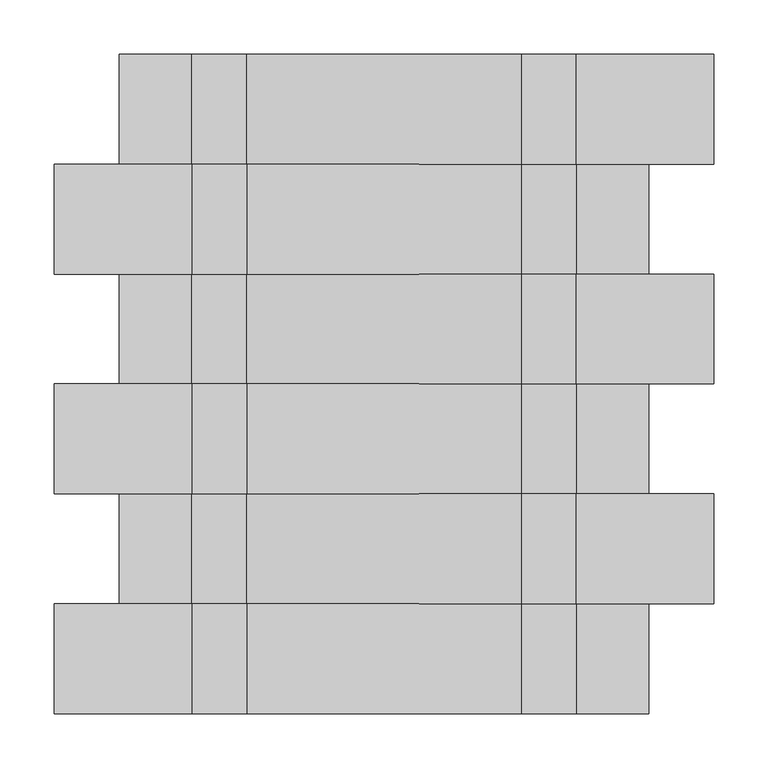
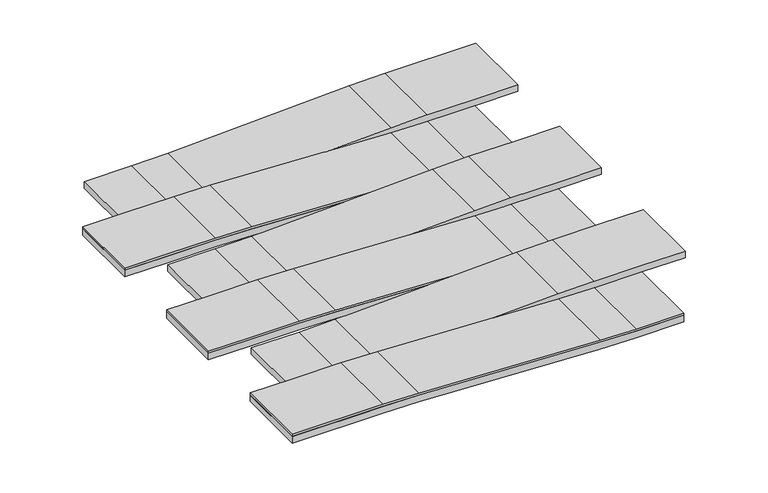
"""IFC4 building model written with IfcOpenShell, lengths in millimetres: proxy geometry, FilzFelt_Crossover : 2’-0” x 2’-0”."""

from ifc_helpers import new_model, si_unit, frame, origin, place, context, project, spatial, polyline, circle_curve, source, transform, mapped, element, save
from ifc_brep_helpers import plane_surface, cylinder_surface, revolved_surface, advanced_brep


def specialty_equipment_3ae4ee64(model_context):
    return source(origin(), model_context, "Body", "AdvancedBrep", [
        advanced_brep(
        [(244.475, 101.6, 9.525), (244.475, 101.6, 0.0), (244.475, 203.2, 0.0), (244.475, 203.2, 9.525), (-304.8, 101.6, 12.7), (-304.8, 101.6, 22.225), (-304.8, 203.2, 22.225), (-304.8, 203.2, 12.7), (-244.475, 101.6, 12.7), (-177.7889853, 101.6, 12.7), (-127.5617331, 101.6, 11.6540527), (126.5043172, 101.6, 1.0679673), (177.7889853, 101.6, 0.0), (177.7889853, 101.6, 9.525), (126.9008482, 101.6, 10.5847098), (-127.1652021, 101.6, 21.1707952), (-177.7889853, 101.6, 22.225), (-244.475, 101.6, 22.225), (-177.7889853, 203.2, 22.225), (-244.475, 203.2, 22.225), (-127.1652021, 203.2, 21.1707952), (126.9008482, 203.2, 10.5847098), (177.7889853, 203.2, 9.525), (177.7889853, 203.2, 0.0), (126.5043172, 203.2, 1.0679673), (-127.5617331, 203.2, 11.6540527), (-177.7889853, 203.2, 12.7), (-244.475, 203.2, 12.7)],
        [
            (0, 1),
            (1, 2),
            (2, 3),
            (3, 0),
            (4, 5),
            (5, 6),
            (6, 7),
            (7, 4),
            (4, 8),
            (8, 9),
            (9, 10, circle_curve(frame((-177.7889853, 101.6, -1193.8), z_axis=(0.0, 1.0, 0.0), x_axis=(0.0, 0.0, 1.0)), 1206.5)),
            (10, 11),
            (11, 12, circle_curve(frame((177.7889853, 101.6, 1231.9), z_axis=(0.0, -1.0, 0.0), x_axis=(-0.04163054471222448, 0.0, -0.9991330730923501)), 1231.9)),
            (12, 1),
            (0, 13),
            (13, 14, circle_curve(frame((177.7889853, 101.6, 1231.9), z_axis=(0.0, 1.0, 0.0), x_axis=(-0.04163054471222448, 0.0, -0.9991330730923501)), 1222.375)),
            (14, 15),
            (15, 16, circle_curve(frame((-177.7889853, 101.6, -1193.8), z_axis=(0.0, -1.0, 0.0), x_axis=(0.0, 0.0, 1.0)), 1216.025)),
            (16, 17),
            (17, 5),
            (16, 18),
            (18, 19),
            (19, 6),
            (18, 20, circle_curve(frame((-177.7889853, 203.2, -1193.8), z_axis=(0.0, 1.0, 0.0), x_axis=(0.0, 0.0, 1.0)), 1216.025)),
            (20, 21),
            (21, 22, circle_curve(frame((177.7889853, 203.2, 1231.9), z_axis=(0.0, -1.0, 0.0), x_axis=(-0.04163054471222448, 0.0, -0.9991330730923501)), 1222.375)),
            (22, 3),
            (2, 23),
            (23, 24, circle_curve(frame((177.7889853, 203.2, 1231.9), z_axis=(0.0, 1.0, 0.0), x_axis=(-0.04163054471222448, 0.0, -0.9991330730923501)), 1231.9)),
            (24, 25),
            (25, 26, circle_curve(frame((-177.7889853, 203.2, -1193.8), z_axis=(0.0, -1.0, 0.0), x_axis=(0.0, 0.0, 1.0)), 1206.5)),
            (26, 27),
            (27, 7),
            (26, 9),
            (15, 20),
            (25, 10),
            (14, 21),
            (24, 11),
            (13, 22),
            (23, 12),
        ],
        [
            plane_surface(frame((244.475, 203.2, 25.4), z_axis=(1.0, 0.0, 0.0), x_axis=(0.0, 0.0, -1.0))),
            plane_surface(frame((-304.8, 0.0, 25.4), z_axis=(-1.0, 0.0, 0.0), x_axis=(0.0, -1.0, 0.0))),
            plane_surface(frame((-304.8, 101.6, 12.7), z_axis=(0.0, -1.0, 0.0), x_axis=(1.0, 0.0, 0.0))),
            plane_surface(frame((-304.8, 101.6, 22.225), z_axis=(0.0, 0.0, 1.0), x_axis=(1.0, 0.0, 0.0))),
            plane_surface(frame((-304.8, 203.2, 22.225), z_axis=(0.0, 1.0, 0.0), x_axis=(1.0, 0.0, 0.0))),
            plane_surface(frame((-304.8, 203.2, 12.7), z_axis=(0.0, 0.0, -1.0), x_axis=(1.0, 0.0, 0.0))),
            cylinder_surface(frame((-177.7889853, 0.0, -1193.8), z_axis=(0.0, 1.0, 0.0), x_axis=(0.0, 0.0, 1.0)), 1216.025),
            revolved_surface(polyline([(-177.7889853, 203.2, 12.700000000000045), (-177.7889853, 101.6, 12.700000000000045)]), (-177.7889853, 0.0, -1193.8), (0.0, 1.0, 0.0)),
            plane_surface(frame((-127.1652021, 101.6, 21.1707952), z_axis=(0.041630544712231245, 0.0, 0.9991330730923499), x_axis=(0.9991330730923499, 0.0, -0.041630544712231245))),
            plane_surface(frame((-127.5617331, 203.2, 11.6540527), z_axis=(-0.041630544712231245, 0.0, -0.9991330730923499), x_axis=(0.9991330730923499, 0.0, -0.041630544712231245))),
            revolved_surface(polyline([(126.9008482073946, 101.6, 10.58470977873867), (126.9008482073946, 203.2, 10.58470977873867)]), (177.7889853, 0.0, 1231.9), (0.0, -1.0, 0.0)),
            cylinder_surface(frame((177.7889853, 0.0, 1231.9), z_axis=(0.0, -1.0, 0.0), x_axis=(-0.04163054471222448, 0.0, -0.9991330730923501)), 1231.9),
            plane_surface(frame((177.7889853, 101.6, 9.525), z_axis=(0.0, 0.0, 1.0), x_axis=(1.0, 0.0, 0.0))),
            plane_surface(frame((177.7889853, 203.2, 0.0), z_axis=(0.0, 0.0, -1.0), x_axis=(1.0, 0.0, 0.0))),
        ],
        [
            (0, [[1, 2, 3, 4]]),
            (1, [[5, 6, 7, 8]]),
            (2, [[-5, 9, 10, 11, 12, 13, 14, -1, 15, 16, 17, 18, 19, 20]]),
            (3, [[-6, -20, -19, 21, 22, 23]]),
            (4, [[-7, -23, -22, 24, 25, 26, 27, -3, 28, 29, 30, 31, 32, 33]]),
            (5, [[-8, -33, -32, 34, -10, -9]]),
            (6, [[-18, 35, -24, -21]]),
            (7, [[-11, -34, -31, 36]]),
            (8, [[-17, 37, -25, -35]]),
            (9, [[-12, -36, -30, 38]]),
            (10, [[-16, 39, -26, -37]]),
            (11, [[-13, -38, -29, 40]]),
            (12, [[-39, -15, -4, -27]]),
            (13, [[-40, -28, -2, -14]]),
        ],
    ),
        advanced_brep(
        [(244.475, -101.6, 9.525), (244.475, -101.6, 0.0), (244.475, 0.0, 0.0), (244.475, 0.0, 9.525), (-304.8, -101.6, 12.7), (-304.8, -101.6, 22.225), (-304.8, 0.0, 22.225), (-304.8, 0.0, 12.7), (-244.475, -101.6, 12.7), (-177.7889853, -101.6, 12.7), (-127.5617331, -101.6, 11.6540527), (126.5043172, -101.6, 1.0679673), (177.7889853, -101.6, 0.0), (177.7889853, -101.6, 9.525), (126.9008482, -101.6, 10.5847098), (-127.1652021, -101.6, 21.1707952), (-177.7889853, -101.6, 22.225), (-244.475, -101.6, 22.225), (-177.7889853, 0.0, 22.225), (-244.475, 0.0, 22.225), (-127.1652021, 0.0, 21.1707952), (126.9008482, 0.0, 10.5847098), (177.7889853, 0.0, 9.525), (177.7889853, 0.0, 0.0), (126.5043172, 0.0, 1.0679673), (-127.5617331, 0.0, 11.6540527), (-177.7889853, 0.0, 12.7), (-244.475, 0.0, 12.7)],
        [
            (0, 1),
            (1, 2),
            (2, 3),
            (3, 0),
            (4, 5),
            (5, 6),
            (6, 7),
            (7, 4),
            (4, 8),
            (8, 9),
            (9, 10, circle_curve(frame((-177.7889853, -101.6, -1193.8), z_axis=(0.0, 1.0, 0.0), x_axis=(0.0, 0.0, 1.0)), 1206.5)),
            (10, 11),
            (11, 12, circle_curve(frame((177.7889853, -101.6, 1231.9), z_axis=(0.0, -1.0, 0.0), x_axis=(-0.04163054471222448, 0.0, -0.9991330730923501)), 1231.9)),
            (12, 1),
            (0, 13),
            (13, 14, circle_curve(frame((177.7889853, -101.6, 1231.9), z_axis=(0.0, 1.0, 0.0), x_axis=(-0.04163054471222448, 0.0, -0.9991330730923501)), 1222.375)),
            (14, 15),
            (15, 16, circle_curve(frame((-177.7889853, -101.6, -1193.8), z_axis=(0.0, -1.0, 0.0), x_axis=(0.0, 0.0, 1.0)), 1216.025)),
            (16, 17),
            (17, 5),
            (16, 18),
            (18, 19),
            (19, 6),
            (18, 20, circle_curve(frame((-177.7889853, 0.0, -1193.8), z_axis=(0.0, 1.0, 0.0), x_axis=(0.0, 0.0, 1.0)), 1216.025)),
            (20, 21),
            (21, 22, circle_curve(frame((177.7889853, 0.0, 1231.9), z_axis=(0.0, -1.0, 0.0), x_axis=(-0.04163054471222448, 0.0, -0.9991330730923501)), 1222.375)),
            (22, 3),
            (2, 23),
            (23, 24, circle_curve(frame((177.7889853, 0.0, 1231.9), z_axis=(0.0, 1.0, 0.0), x_axis=(-0.04163054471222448, 0.0, -0.9991330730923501)), 1231.9)),
            (24, 25),
            (25, 26, circle_curve(frame((-177.7889853, 0.0, -1193.8), z_axis=(0.0, -1.0, 0.0), x_axis=(0.0, 0.0, 1.0)), 1206.5)),
            (26, 27),
            (27, 7),
            (26, 9),
            (15, 20),
            (25, 10),
            (14, 21),
            (24, 11),
            (13, 22),
            (23, 12),
        ],
        [
            plane_surface(frame((244.475, 0.0, 25.4), z_axis=(1.0, 0.0, 0.0), x_axis=(0.0, 0.0, -1.0))),
            plane_surface(frame((-304.8, 0.0, 25.4), z_axis=(-1.0, 0.0, 0.0), x_axis=(0.0, -1.0, 0.0))),
            plane_surface(frame((-304.8, -101.6, 12.7), z_axis=(0.0, -1.0, 0.0), x_axis=(1.0, 0.0, 0.0))),
            plane_surface(frame((-304.8, -101.6, 22.225), z_axis=(0.0, 0.0, 1.0), x_axis=(1.0, 0.0, 0.0))),
            plane_surface(frame((-304.8, 0.0, 22.225), z_axis=(0.0, 1.0, 0.0), x_axis=(1.0, 0.0, 0.0))),
            plane_surface(frame((-304.8, 0.0, 12.7), z_axis=(0.0, 0.0, -1.0), x_axis=(1.0, 0.0, 0.0))),
            cylinder_surface(frame((-177.7889853, 0.0, -1193.8), z_axis=(0.0, 1.0, 0.0), x_axis=(0.0, 0.0, 1.0)), 1216.025),
            revolved_surface(polyline([(-177.7889853, 0.0, 12.700000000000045), (-177.7889853, -101.6, 12.700000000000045)]), (-177.7889853, 0.0, -1193.8), (0.0, 1.0, 0.0)),
            plane_surface(frame((-127.1652021, -101.6, 21.1707952), z_axis=(0.04163054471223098, 0.0, 0.9991330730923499), x_axis=(0.9991330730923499, 0.0, -0.04163054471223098))),
            plane_surface(frame((-127.5617331, 0.0, 11.6540527), z_axis=(-0.04163054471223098, 0.0, -0.9991330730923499), x_axis=(0.9991330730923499, 0.0, -0.04163054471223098))),
            revolved_surface(polyline([(126.9008482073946, -101.6, 10.58470977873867), (126.9008482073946, 0.0, 10.58470977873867)]), (177.7889853, 0.0, 1231.9), (0.0, -1.0, 0.0)),
            cylinder_surface(frame((177.7889853, 0.0, 1231.9), z_axis=(0.0, -1.0, 0.0), x_axis=(-0.04163054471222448, 0.0, -0.9991330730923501)), 1231.9),
            plane_surface(frame((177.7889853, -101.6, 9.525), z_axis=(0.0, 0.0, 1.0), x_axis=(1.0, 0.0, 0.0))),
            plane_surface(frame((177.7889853, 0.0, 0.0), z_axis=(0.0, 0.0, -1.0), x_axis=(1.0, 0.0, 0.0))),
        ],
        [
            (0, [[1, 2, 3, 4]]),
            (1, [[5, 6, 7, 8]]),
            (2, [[-5, 9, 10, 11, 12, 13, 14, -1, 15, 16, 17, 18, 19, 20]]),
            (3, [[-6, -20, -19, 21, 22, 23]]),
            (4, [[-7, -23, -22, 24, 25, 26, 27, -3, 28, 29, 30, 31, 32, 33]]),
            (5, [[-8, -33, -32, 34, -10, -9]]),
            (6, [[-18, 35, -24, -21]]),
            (7, [[-11, -34, -31, 36]]),
            (8, [[-17, 37, -25, -35]]),
            (9, [[-12, -36, -30, 38]]),
            (10, [[-16, 39, -26, -37]]),
            (11, [[-13, -38, -29, 40]]),
            (12, [[-39, -15, -4, -27]]),
            (13, [[-40, -28, -2, -14]]),
        ],
    ),
        advanced_brep(
        [(244.475, -304.8, 9.525), (244.475, -304.8, 0.0), (244.475, -203.2, 0.0), (244.475, -203.2, 9.525), (-304.8, -304.8, 12.7), (-304.8, -304.8, 22.225), (-304.8, -203.2, 22.225), (-304.8, -203.2, 12.7), (-177.7889853, -304.8, 12.7), (-127.5617331, -304.8, 11.6540527), (126.5043172, -304.8, 1.0679673), (177.7889853, -304.8, 0.0), (177.7889853, -304.8, 9.525), (126.9008482, -304.8, 10.5847098), (-127.1652021, -304.8, 21.1707952), (-177.7889853, -304.8, 22.225), (-177.7889853, -203.2, 22.225), (-244.475, -203.2, 22.225), (-127.1652021, -203.2, 21.1707952), (126.9008482, -203.2, 10.5847098), (177.7889853, -203.2, 9.525), (177.7889853, -203.2, 0.0), (126.5043172, -203.2, 1.0679673), (-127.5617331, -203.2, 11.6540527), (-177.7889853, -203.2, 12.7), (-244.475, -203.2, 12.7)],
        [
            (0, 1),
            (1, 2),
            (2, 3),
            (3, 0),
            (4, 5),
            (5, 6),
            (6, 7),
            (7, 4),
            (4, 8),
            (8, 9, circle_curve(frame((-177.7889853, -304.8, -1193.8), z_axis=(0.0, 1.0, 0.0), x_axis=(0.0, 0.0, 1.0)), 1206.5)),
            (9, 10),
            (10, 11, circle_curve(frame((177.7889853, -304.8, 1231.9), z_axis=(0.0, -1.0, 0.0), x_axis=(-0.04163054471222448, 0.0, -0.9991330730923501)), 1231.9)),
            (11, 1),
            (0, 12),
            (12, 13, circle_curve(frame((177.7889853, -304.8, 1231.9), z_axis=(0.0, 1.0, 0.0), x_axis=(-0.04163054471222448, 0.0, -0.9991330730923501)), 1222.375)),
            (13, 14),
            (14, 15, circle_curve(frame((-177.7889853, -304.8, -1193.8), z_axis=(0.0, -1.0, 0.0), x_axis=(0.0, 0.0, 1.0)), 1216.025)),
            (15, 5),
            (15, 16),
            (16, 17),
            (17, 6),
            (16, 18, circle_curve(frame((-177.7889853, -203.2, -1193.8), z_axis=(0.0, 1.0, 0.0), x_axis=(0.0, 0.0, 1.0)), 1216.025)),
            (18, 19),
            (19, 20, circle_curve(frame((177.7889853, -203.2, 1231.9), z_axis=(0.0, -1.0, 0.0), x_axis=(-0.04163054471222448, 0.0, -0.9991330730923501)), 1222.375)),
            (20, 3),
            (2, 21),
            (21, 22, circle_curve(frame((177.7889853, -203.2, 1231.9), z_axis=(0.0, 1.0, 0.0), x_axis=(-0.04163054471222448, 0.0, -0.9991330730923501)), 1231.9)),
            (22, 23),
            (23, 24, circle_curve(frame((-177.7889853, -203.2, -1193.8), z_axis=(0.0, -1.0, 0.0), x_axis=(0.0, 0.0, 1.0)), 1206.5)),
            (24, 25),
            (25, 7),
            (24, 8),
            (14, 18),
            (23, 9),
            (13, 19),
            (22, 10),
            (12, 20),
            (21, 11),
        ],
        [
            plane_surface(frame((244.475, -203.2, 25.4), z_axis=(1.0, 0.0, 0.0), x_axis=(0.0, 0.0, -1.0))),
            plane_surface(frame((-304.8, 0.0, 25.4), z_axis=(-1.0, 0.0, 0.0), x_axis=(0.0, -1.0, 0.0))),
            plane_surface(frame((-304.8, -304.8, 12.7), z_axis=(0.0, -1.0, 0.0), x_axis=(1.0, 0.0, 0.0))),
            plane_surface(frame((-304.8, -304.8, 22.225), z_axis=(0.0, 0.0, 1.0), x_axis=(1.0, 0.0, 0.0))),
            plane_surface(frame((-304.8, -203.2, 22.225), z_axis=(0.0, 1.0, 0.0), x_axis=(1.0, 0.0, 0.0))),
            plane_surface(frame((-304.8, -203.2, 12.7), z_axis=(0.0, 0.0, -1.0), x_axis=(1.0, 0.0, 0.0))),
            cylinder_surface(frame((-177.7889853, 0.0, -1193.8), z_axis=(0.0, 1.0, 0.0), x_axis=(0.0, 0.0, 1.0)), 1216.025),
            revolved_surface(polyline([(-177.7889853, -203.2, 12.700000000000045), (-177.7889853, -304.8, 12.700000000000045)]), (-177.7889853, 0.0, -1193.8), (0.0, 1.0, 0.0)),
            plane_surface(frame((-127.1652021, -304.8, 21.1707952), z_axis=(0.041630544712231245, 0.0, 0.9991330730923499), x_axis=(0.9991330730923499, 0.0, -0.041630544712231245))),
            plane_surface(frame((-127.5617331, -203.2, 11.6540527), z_axis=(-0.041630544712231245, 0.0, -0.9991330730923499), x_axis=(0.9991330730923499, 0.0, -0.041630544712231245))),
            revolved_surface(polyline([(126.9008482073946, -304.8, 10.58470977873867), (126.9008482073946, -203.2, 10.58470977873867)]), (177.7889853, 0.0, 1231.9), (0.0, -1.0, 0.0)),
            cylinder_surface(frame((177.7889853, 0.0, 1231.9), z_axis=(0.0, -1.0, 0.0), x_axis=(-0.04163054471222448, 0.0, -0.9991330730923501)), 1231.9),
            plane_surface(frame((177.7889853, -304.8, 9.525), z_axis=(0.0, 0.0, 1.0), x_axis=(1.0, 0.0, 0.0))),
            plane_surface(frame((177.7889853, -203.2, 0.0), z_axis=(0.0, 0.0, -1.0), x_axis=(1.0, 0.0, 0.0))),
        ],
        [
            (0, [[1, 2, 3, 4]]),
            (1, [[5, 6, 7, 8]]),
            (2, [[-5, 9, 10, 11, 12, 13, -1, 14, 15, 16, 17, 18]]),
            (3, [[-6, -18, 19, 20, 21]]),
            (4, [[-7, -21, -20, 22, 23, 24, 25, -3, 26, 27, 28, 29, 30, 31]]),
            (5, [[-8, -31, -30, 32, -9]]),
            (6, [[-17, 33, -22, -19]]),
            (7, [[-10, -32, -29, 34]]),
            (8, [[-16, 35, -23, -33]]),
            (9, [[-11, -34, -28, 36]]),
            (10, [[-15, 37, -24, -35]]),
            (11, [[-12, -36, -27, 38]]),
            (12, [[-37, -14, -4, -25]]),
            (13, [[-38, -26, -2, -13]]),
        ],
    ),
        advanced_brep(
        [(-244.475, 304.8, 9.525), (-244.475, 304.8, 0.0), (-244.475, 203.2, 0.0), (-244.475, 203.2, 9.525), (304.8, 203.2, 12.7), (304.8, 304.8, 12.7), (304.8, 304.8, 22.225), (304.8, 203.2, 22.225), (244.475, 203.2, 12.7), (177.7889853, 203.2, 12.7), (177.7889853, 304.8, 12.7), (127.5617331, 304.8, 11.6540527), (-126.5043172, 304.8, 1.0679673), (-177.7889853, 304.8, 0.0), (-177.7889853, 304.8, 9.525), (-126.9008482, 304.8, 10.5847098), (127.1652021, 304.8, 21.1707952), (177.7889853, 304.8, 22.225), (177.7889853, 203.2, 22.225), (244.475, 203.2, 22.225), (127.1652021, 203.2, 21.1707952), (-126.9008482, 203.2, 10.5847098), (-177.7889853, 203.2, 9.525), (-177.7889853, 203.2, 0.0), (-126.5043172, 203.2, 1.0679673), (127.5617331, 203.2, 11.6540527)],
        [
            (0, 1),
            (1, 2),
            (2, 3),
            (3, 0),
            (4, 5),
            (5, 6),
            (6, 7),
            (7, 4),
            (4, 8),
            (8, 9),
            (9, 10),
            (10, 5),
            (10, 11, circle_curve(frame((177.7889853, 304.8, -1193.8), z_axis=(0.0, -1.0, 0.0), x_axis=(0.0, 0.0, 1.0)), 1206.5)),
            (11, 12),
            (12, 13, circle_curve(frame((-177.7889853, 304.8, 1231.9), z_axis=(0.0, 1.0, 0.0), x_axis=(0.04163054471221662, 0.0, -0.9991330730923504)), 1231.9)),
            (13, 1),
            (0, 14),
            (14, 15, circle_curve(frame((-177.7889853, 304.8, 1231.9), z_axis=(0.0, -1.0, 0.0), x_axis=(0.04163054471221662, 0.0, -0.9991330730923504)), 1222.375)),
            (15, 16),
            (16, 17, circle_curve(frame((177.7889853, 304.8, -1193.8), z_axis=(0.0, 1.0, 0.0), x_axis=(0.0, 0.0, 1.0)), 1216.025)),
            (17, 6),
            (17, 18),
            (18, 19),
            (19, 7),
            (18, 20, circle_curve(frame((177.7889853, 203.2, -1193.8), z_axis=(0.0, -1.0, 0.0), x_axis=(0.0, 0.0, 1.0)), 1216.025)),
            (20, 21),
            (21, 22, circle_curve(frame((-177.7889853, 203.2, 1231.9), z_axis=(0.0, 1.0, 0.0), x_axis=(0.04163054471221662, 0.0, -0.9991330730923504)), 1222.375)),
            (22, 3),
            (2, 23),
            (23, 24, circle_curve(frame((-177.7889853, 203.2, 1231.9), z_axis=(0.0, -1.0, 0.0), x_axis=(0.04163054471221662, 0.0, -0.9991330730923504)), 1231.9)),
            (24, 25),
            (25, 9, circle_curve(frame((177.7889853, 203.2, -1193.8), z_axis=(0.0, 1.0, 0.0), x_axis=(0.0, 0.0, 1.0)), 1206.5)),
            (25, 11),
            (16, 20),
            (24, 12),
            (15, 21),
            (23, 13),
            (14, 22),
        ],
        [
            plane_surface(frame((-244.475, 203.2, 25.4), z_axis=(-1.0, 0.0, 0.0), x_axis=(0.0, 0.0, -1.0))),
            plane_surface(frame((304.8, 0.0, 25.4), z_axis=(1.0, 0.0, 0.0), x_axis=(0.0, -1.0, 0.0))),
            plane_surface(frame((304.8, 203.2, 12.7), z_axis=(0.0, 0.0, -1.0), x_axis=(-1.0, 0.0, 0.0))),
            plane_surface(frame((304.8, 304.8, 12.7), z_axis=(0.0, 1.0, 0.0), x_axis=(-1.0, 0.0, 0.0))),
            plane_surface(frame((304.8, 304.8, 22.225), z_axis=(0.0, 0.0, 1.0), x_axis=(-1.0, 0.0, 0.0))),
            plane_surface(frame((304.8, 203.2, 22.225), z_axis=(0.0, -1.0, 0.0), x_axis=(-1.0, 0.0, 0.0))),
            revolved_surface(polyline([(177.7889853, 203.2, 12.700000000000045), (177.7889853, 304.8, 12.700000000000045)]), (177.7889853, 0.0, -1193.8), (0.0, -1.0, 0.0)),
            cylinder_surface(frame((177.7889853, 0.0, -1193.8), z_axis=(0.0, -1.0, 0.0), x_axis=(0.0, 0.0, 1.0)), 1216.025),
            plane_surface(frame((127.5617331, 203.2, 11.6540527), z_axis=(0.041630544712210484, 0.0, -0.9991330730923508), x_axis=(-0.9991330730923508, 0.0, -0.041630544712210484))),
            plane_surface(frame((127.1652021, 304.8, 21.1707952), z_axis=(-0.041630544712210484, 0.0, 0.9991330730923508), x_axis=(-0.9991330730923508, 0.0, -0.041630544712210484))),
            cylinder_surface(frame((-177.7889853, 0.0, 1231.9), z_axis=(0.0, 1.0, 0.0), x_axis=(0.04163054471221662, 0.0, -0.9991330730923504)), 1231.9),
            revolved_surface(polyline([(-126.90084820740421, 304.8, 10.584709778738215), (-126.90084820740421, 203.2, 10.584709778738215)]), (-177.7889853, 0.0, 1231.9), (0.0, 1.0, 0.0)),
            plane_surface(frame((-177.7889853, 203.2, 0.0), z_axis=(0.0, 0.0, -1.0), x_axis=(-1.0, 0.0, 0.0))),
            plane_surface(frame((-177.7889853, 304.8, 9.525), z_axis=(0.0, 0.0, 1.0), x_axis=(-1.0, 0.0, 0.0))),
        ],
        [
            (0, [[1, 2, 3, 4]]),
            (1, [[5, 6, 7, 8]]),
            (2, [[-5, 9, 10, 11, 12]]),
            (3, [[-6, -12, 13, 14, 15, 16, -1, 17, 18, 19, 20, 21]]),
            (4, [[-7, -21, 22, 23, 24]]),
            (5, [[-8, -24, -23, 25, 26, 27, 28, -3, 29, 30, 31, 32, -10, -9]]),
            (6, [[-11, -32, 33, -13]]),
            (7, [[-20, 34, -25, -22]]),
            (8, [[-14, -33, -31, 35]]),
            (9, [[-19, 36, -26, -34]]),
            (10, [[-15, -35, -30, 37]]),
            (11, [[-18, 38, -27, -36]]),
            (12, [[-37, -29, -2, -16]]),
            (13, [[-38, -17, -4, -28]]),
        ],
    ),
        advanced_brep(
        [(-244.475, 101.6, 9.525), (-244.475, 101.6, 0.0), (-244.475, 0.0, 0.0), (-244.475, 0.0, 9.525), (304.8, 0.0, 12.7), (304.8, 101.6, 12.7), (304.8, 101.6, 22.225), (304.8, 0.0, 22.225), (244.475, 0.0, 12.7), (177.7889853, 0.0, 12.7), (177.7889853, 101.6, 12.7), (244.475, 101.6, 12.7), (127.5617331, 101.6, 11.6540527), (-126.5043172, 101.6, 1.0679673), (-177.7889853, 101.6, 0.0), (-177.7889853, 101.6, 9.525), (-126.9008482, 101.6, 10.5847098), (127.1652021, 101.6, 21.1707952), (177.7889853, 101.6, 22.225), (244.475, 101.6, 22.225), (177.7889853, 0.0, 22.225), (244.475, 0.0, 22.225), (127.1652021, 0.0, 21.1707952), (-126.9008482, 0.0, 10.5847098), (-177.7889853, 0.0, 9.525), (-177.7889853, 0.0, 0.0), (-126.5043172, 0.0, 1.0679673), (127.5617331, 0.0, 11.6540527)],
        [
            (0, 1),
            (1, 2),
            (2, 3),
            (3, 0),
            (4, 5),
            (5, 6),
            (6, 7),
            (7, 4),
            (4, 8),
            (8, 9),
            (9, 10),
            (10, 11),
            (11, 5),
            (10, 12, circle_curve(frame((177.7889853, 101.6, -1193.8), z_axis=(0.0, -1.0, 0.0), x_axis=(0.0, 0.0, 1.0)), 1206.5)),
            (12, 13),
            (13, 14, circle_curve(frame((-177.7889853, 101.6, 1231.9), z_axis=(0.0, 1.0, 0.0), x_axis=(0.04163054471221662, 0.0, -0.9991330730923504)), 1231.9)),
            (14, 1),
            (0, 15),
            (15, 16, circle_curve(frame((-177.7889853, 101.6, 1231.9), z_axis=(0.0, -1.0, 0.0), x_axis=(0.04163054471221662, 0.0, -0.9991330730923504)), 1222.375)),
            (16, 17),
            (17, 18, circle_curve(frame((177.7889853, 101.6, -1193.8), z_axis=(0.0, 1.0, 0.0), x_axis=(0.0, 0.0, 1.0)), 1216.025)),
            (18, 19),
            (19, 6),
            (18, 20),
            (20, 21),
            (21, 7),
            (20, 22, circle_curve(frame((177.7889853, 0.0, -1193.8), z_axis=(0.0, -1.0, 0.0), x_axis=(0.0, 0.0, 1.0)), 1216.025)),
            (22, 23),
            (23, 24, circle_curve(frame((-177.7889853, 0.0, 1231.9), z_axis=(0.0, 1.0, 0.0), x_axis=(0.04163054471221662, 0.0, -0.9991330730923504)), 1222.375)),
            (24, 3),
            (2, 25),
            (25, 26, circle_curve(frame((-177.7889853, 0.0, 1231.9), z_axis=(0.0, -1.0, 0.0), x_axis=(0.04163054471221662, 0.0, -0.9991330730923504)), 1231.9)),
            (26, 27),
            (27, 9, circle_curve(frame((177.7889853, 0.0, -1193.8), z_axis=(0.0, 1.0, 0.0), x_axis=(0.0, 0.0, 1.0)), 1206.5)),
            (27, 12),
            (17, 22),
            (26, 13),
            (16, 23),
            (25, 14),
            (15, 24),
        ],
        [
            plane_surface(frame((-244.475, 0.0, 25.4), z_axis=(-1.0, 0.0, 0.0), x_axis=(0.0, 0.0, -1.0))),
            plane_surface(frame((304.8, 0.0, 25.4), z_axis=(1.0, 0.0, 0.0), x_axis=(0.0, -1.0, 0.0))),
            plane_surface(frame((304.8, 0.0, 12.7), z_axis=(0.0, 0.0, -1.0), x_axis=(-1.0, 0.0, 0.0))),
            plane_surface(frame((304.8, 101.6, 12.7), z_axis=(0.0, 1.0, 0.0), x_axis=(-1.0, 0.0, 0.0))),
            plane_surface(frame((304.8, 101.6, 22.225), z_axis=(0.0, 0.0, 1.0), x_axis=(-1.0, 0.0, 0.0))),
            plane_surface(frame((304.8, 0.0, 22.225), z_axis=(0.0, -1.0, 0.0), x_axis=(-1.0, 0.0, 0.0))),
            revolved_surface(polyline([(177.7889853, 0.0, 12.700000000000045), (177.7889853, 101.6, 12.700000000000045)]), (177.7889853, 0.0, -1193.8), (0.0, -1.0, 0.0)),
            cylinder_surface(frame((177.7889853, 0.0, -1193.8), z_axis=(0.0, -1.0, 0.0), x_axis=(0.0, 0.0, 1.0)), 1216.025),
            plane_surface(frame((127.5617331, 0.0, 11.6540527), z_axis=(0.041630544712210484, 0.0, -0.9991330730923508), x_axis=(-0.9991330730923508, 0.0, -0.041630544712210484))),
            plane_surface(frame((127.1652021, 101.6, 21.1707952), z_axis=(-0.041630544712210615, 0.0, 0.9991330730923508), x_axis=(-0.9991330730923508, 0.0, -0.041630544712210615))),
            cylinder_surface(frame((-177.7889853, 0.0, 1231.9), z_axis=(0.0, 1.0, 0.0), x_axis=(0.04163054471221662, 0.0, -0.9991330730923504)), 1231.9),
            revolved_surface(polyline([(-126.90084820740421, 101.6, 10.584709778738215), (-126.90084820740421, 0.0, 10.584709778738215)]), (-177.7889853, 0.0, 1231.9), (0.0, 1.0, 0.0)),
            plane_surface(frame((-177.7889853, 0.0, 0.0), z_axis=(0.0, 0.0, -1.0), x_axis=(-1.0, 0.0, 0.0))),
            plane_surface(frame((-177.7889853, 101.6, 9.525), z_axis=(0.0, 0.0, 1.0), x_axis=(-1.0, 0.0, 0.0))),
        ],
        [
            (0, [[1, 2, 3, 4]]),
            (1, [[5, 6, 7, 8]]),
            (2, [[-5, 9, 10, 11, 12, 13]]),
            (3, [[-6, -13, -12, 14, 15, 16, 17, -1, 18, 19, 20, 21, 22, 23]]),
            (4, [[-7, -23, -22, 24, 25, 26]]),
            (5, [[-8, -26, -25, 27, 28, 29, 30, -3, 31, 32, 33, 34, -10, -9]]),
            (6, [[-11, -34, 35, -14]]),
            (7, [[-21, 36, -27, -24]]),
            (8, [[-15, -35, -33, 37]]),
            (9, [[-20, 38, -28, -36]]),
            (10, [[-16, -37, -32, 39]]),
            (11, [[-19, 40, -29, -38]]),
            (12, [[-39, -31, -2, -17]]),
            (13, [[-40, -18, -4, -30]]),
        ],
    ),
        advanced_brep(
        [(-244.475, -101.6, 9.525), (-244.475, -101.6, 0.0), (-244.475, -203.2, 0.0), (-244.475, -203.2, 9.525), (304.8, -203.2, 12.7), (304.8, -101.6, 12.7), (304.8, -101.6, 22.225), (304.8, -203.2, 22.225), (244.475, -203.2, 12.7), (177.7889853, -203.2, 12.7), (177.7889853, -101.6, 12.7), (244.475, -101.6, 12.7), (127.5617331, -101.6, 11.6540527), (-126.5043172, -101.6, 1.0679673), (-177.7889853, -101.6, 0.0), (-177.7889853, -101.6, 9.525), (-126.9008482, -101.6, 10.5847098), (127.1652021, -101.6, 21.1707952), (177.7889853, -101.6, 22.225), (244.475, -101.6, 22.225), (177.7889853, -203.2, 22.225), (244.475, -203.2, 22.225), (127.1652021, -203.2, 21.1707952), (-126.9008482, -203.2, 10.5847098), (-177.7889853, -203.2, 9.525), (-177.7889853, -203.2, 0.0), (-126.5043172, -203.2, 1.0679673), (127.5617331, -203.2, 11.6540527)],
        [
            (0, 1),
            (1, 2),
            (2, 3),
            (3, 0),
            (4, 5),
            (5, 6),
            (6, 7),
            (7, 4),
            (4, 8),
            (8, 9),
            (9, 10),
            (10, 11),
            (11, 5),
            (10, 12, circle_curve(frame((177.7889853, -101.6, -1193.8), z_axis=(0.0, -1.0, 0.0), x_axis=(0.0, 0.0, 1.0)), 1206.5)),
            (12, 13),
            (13, 14, circle_curve(frame((-177.7889853, -101.6, 1231.9), z_axis=(0.0, 1.0, 0.0), x_axis=(0.04163054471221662, 0.0, -0.9991330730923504)), 1231.9)),
            (14, 1),
            (0, 15),
            (15, 16, circle_curve(frame((-177.7889853, -101.6, 1231.9), z_axis=(0.0, -1.0, 0.0), x_axis=(0.04163054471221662, 0.0, -0.9991330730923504)), 1222.375)),
            (16, 17),
            (17, 18, circle_curve(frame((177.7889853, -101.6, -1193.8), z_axis=(0.0, 1.0, 0.0), x_axis=(0.0, 0.0, 1.0)), 1216.025)),
            (18, 19),
            (19, 6),
            (18, 20),
            (20, 21),
            (21, 7),
            (20, 22, circle_curve(frame((177.7889853, -203.2, -1193.8), z_axis=(0.0, -1.0, 0.0), x_axis=(0.0, 0.0, 1.0)), 1216.025)),
            (22, 23),
            (23, 24, circle_curve(frame((-177.7889853, -203.2, 1231.9), z_axis=(0.0, 1.0, 0.0), x_axis=(0.04163054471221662, 0.0, -0.9991330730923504)), 1222.375)),
            (24, 3),
            (2, 25),
            (25, 26, circle_curve(frame((-177.7889853, -203.2, 1231.9), z_axis=(0.0, -1.0, 0.0), x_axis=(0.04163054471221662, 0.0, -0.9991330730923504)), 1231.9)),
            (26, 27),
            (27, 9, circle_curve(frame((177.7889853, -203.2, -1193.8), z_axis=(0.0, 1.0, 0.0), x_axis=(0.0, 0.0, 1.0)), 1206.5)),
            (27, 12),
            (17, 22),
            (26, 13),
            (16, 23),
            (25, 14),
            (15, 24),
        ],
        [
            plane_surface(frame((-244.475, -203.2, 25.4), z_axis=(-1.0, 0.0, 0.0), x_axis=(0.0, 0.0, -1.0))),
            plane_surface(frame((304.8, 0.0, 25.4), z_axis=(1.0, 0.0, 0.0), x_axis=(0.0, -1.0, 0.0))),
            plane_surface(frame((304.8, -203.2, 12.7), z_axis=(0.0, 0.0, -1.0), x_axis=(-1.0, 0.0, 0.0))),
            plane_surface(frame((304.8, -101.6, 12.7), z_axis=(0.0, 1.0, 0.0), x_axis=(-1.0, 0.0, 0.0))),
            plane_surface(frame((304.8, -101.6, 22.225), z_axis=(0.0, 0.0, 1.0), x_axis=(-1.0, 0.0, 0.0))),
            plane_surface(frame((304.8, -203.2, 22.225), z_axis=(0.0, -1.0, 0.0), x_axis=(-1.0, 0.0, 0.0))),
            revolved_surface(polyline([(177.7889853, -203.2, 12.700000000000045), (177.7889853, -101.6, 12.700000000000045)]), (177.7889853, 0.0, -1193.8), (0.0, -1.0, 0.0)),
            cylinder_surface(frame((177.7889853, 0.0, -1193.8), z_axis=(0.0, -1.0, 0.0), x_axis=(0.0, 0.0, 1.0)), 1216.025),
            plane_surface(frame((127.5617331, -203.2, 11.6540527), z_axis=(0.041630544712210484, 0.0, -0.9991330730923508), x_axis=(-0.9991330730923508, 0.0, -0.041630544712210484))),
            plane_surface(frame((127.1652021, -101.6, 21.1707952), z_axis=(-0.041630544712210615, 0.0, 0.9991330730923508), x_axis=(-0.9991330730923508, 0.0, -0.041630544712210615))),
            cylinder_surface(frame((-177.7889853, 0.0, 1231.9), z_axis=(0.0, 1.0, 0.0), x_axis=(0.04163054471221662, 0.0, -0.9991330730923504)), 1231.9),
            revolved_surface(polyline([(-126.90084820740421, -101.6, 10.584709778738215), (-126.90084820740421, -203.2, 10.584709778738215)]), (-177.7889853, 0.0, 1231.9), (0.0, 1.0, 0.0)),
            plane_surface(frame((-177.7889853, -203.2, 0.0), z_axis=(0.0, 0.0, -1.0), x_axis=(-1.0, 0.0, 0.0))),
            plane_surface(frame((-177.7889853, -101.6, 9.525), z_axis=(0.0, 0.0, 1.0), x_axis=(-1.0, 0.0, 0.0))),
        ],
        [
            (0, [[1, 2, 3, 4]]),
            (1, [[5, 6, 7, 8]]),
            (2, [[-5, 9, 10, 11, 12, 13]]),
            (3, [[-6, -13, -12, 14, 15, 16, 17, -1, 18, 19, 20, 21, 22, 23]]),
            (4, [[-7, -23, -22, 24, 25, 26]]),
            (5, [[-8, -26, -25, 27, 28, 29, 30, -3, 31, 32, 33, 34, -10, -9]]),
            (6, [[-11, -34, 35, -14]]),
            (7, [[-21, 36, -27, -24]]),
            (8, [[-15, -35, -33, 37]]),
            (9, [[-20, 38, -28, -36]]),
            (10, [[-16, -37, -32, 39]]),
            (11, [[-19, 40, -29, -38]]),
            (12, [[-39, -31, -2, -17]]),
            (13, [[-40, -18, -4, -30]]),
        ],
    ),
        advanced_brep(
        [(244.475, 101.6, 12.7), (244.475, 101.6, 9.525), (244.475, 203.2, 9.525), (244.475, 203.2, 12.7), (-304.8, 101.6, 22.225), (-304.8, 101.6, 25.4), (-304.8, 203.2, 25.4), (-304.8, 203.2, 22.225), (-244.475, 101.6, 22.225), (-177.7889853, 101.6, 22.225), (-127.1652021, 101.6, 21.1707952), (126.9008482, 101.6, 10.5847098), (177.7889853, 101.6, 9.525), (177.7889853, 101.6, 12.7), (127.0330251, 101.6, 13.7569573), (-127.0330251, 101.6, 24.3430427), (-177.7889853, 101.6, 25.4), (-244.475, 101.6, 25.4), (-177.7889853, 203.2, 25.4), (-244.475, 203.2, 25.4), (-127.0330251, 203.2, 24.3430427), (127.0330251, 203.2, 13.7569573), (177.7889853, 203.2, 12.7), (177.7889853, 203.2, 9.525), (126.9008482, 203.2, 10.5847098), (-127.1652021, 203.2, 21.1707952), (-177.7889853, 203.2, 22.225), (-244.475, 203.2, 22.225)],
        [
            (0, 1),
            (1, 2),
            (2, 3),
            (3, 0),
            (4, 5),
            (5, 6),
            (6, 7),
            (7, 4),
            (4, 8),
            (8, 9),
            (9, 10, circle_curve(frame((-177.7889853, 101.6, -1193.8), z_axis=(0.0, 1.0, 0.0), x_axis=(0.0, 0.0, 1.0)), 1216.025)),
            (10, 11),
            (11, 12, circle_curve(frame((177.7889853, 101.6, 1231.9), z_axis=(0.0, -1.0, 0.0), x_axis=(-0.04163054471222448, 0.0, -0.9991330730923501)), 1222.375)),
            (12, 1),
            (0, 13),
            (13, 14, circle_curve(frame((177.7889853, 101.6, 1231.9), z_axis=(0.0, 1.0, 0.0), x_axis=(-0.04163054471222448, 0.0, -0.9991330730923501)), 1219.2)),
            (14, 15),
            (15, 16, circle_curve(frame((-177.7889853, 101.6, -1193.8), z_axis=(0.0, -1.0, 0.0), x_axis=(0.0, 0.0, 1.0)), 1219.2)),
            (16, 17),
            (17, 5),
            (16, 18),
            (18, 19),
            (19, 6),
            (18, 20, circle_curve(frame((-177.7889853, 203.2, -1193.8), z_axis=(0.0, 1.0, 0.0), x_axis=(0.0, 0.0, 1.0)), 1219.2)),
            (20, 21),
            (21, 22, circle_curve(frame((177.7889853, 203.2, 1231.9), z_axis=(0.0, -1.0, 0.0), x_axis=(-0.04163054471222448, 0.0, -0.9991330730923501)), 1219.2)),
            (22, 3),
            (2, 23),
            (23, 24, circle_curve(frame((177.7889853, 203.2, 1231.9), z_axis=(0.0, 1.0, 0.0), x_axis=(-0.04163054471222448, 0.0, -0.9991330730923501)), 1222.375)),
            (24, 25),
            (25, 26, circle_curve(frame((-177.7889853, 203.2, -1193.8), z_axis=(0.0, -1.0, 0.0), x_axis=(0.0, 0.0, 1.0)), 1216.025)),
            (26, 27),
            (27, 7),
            (26, 9),
            (15, 20),
            (25, 10),
            (14, 21),
            (24, 11),
            (13, 22),
            (23, 12),
        ],
        [
            plane_surface(frame((244.475, 203.2, 25.4), z_axis=(1.0, 0.0, 0.0), x_axis=(0.0, 0.0, -1.0))),
            plane_surface(frame((-304.8, 0.0, 25.4), z_axis=(-1.0, 0.0, 0.0), x_axis=(0.0, -1.0, 0.0))),
            plane_surface(frame((-304.8, 101.6, 22.225), z_axis=(0.0, -1.0, 0.0), x_axis=(1.0, 0.0, 0.0))),
            plane_surface(frame((-304.8, 101.6, 25.4), z_axis=(0.0, 0.0, 1.0), x_axis=(1.0, 0.0, 0.0))),
            plane_surface(frame((-304.8, 203.2, 25.4), z_axis=(0.0, 1.0, 0.0), x_axis=(1.0, 0.0, 0.0))),
            plane_surface(frame((-304.8, 203.2, 22.225), z_axis=(0.0, 0.0, -1.0), x_axis=(1.0, 0.0, 0.0))),
            cylinder_surface(frame((-177.7889853, 0.0, -1193.8), z_axis=(0.0, 1.0, 0.0), x_axis=(0.0, 0.0, 1.0)), 1219.2),
            revolved_surface(polyline([(-177.7889853, 203.2, 22.225000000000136), (-177.7889853, 101.6, 22.225000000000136)]), (-177.7889853, 0.0, -1193.8), (0.0, 1.0, 0.0)),
            plane_surface(frame((-127.0330251, 101.6, 24.3430427), z_axis=(0.04163054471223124, 0.0, 0.9991330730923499), x_axis=(0.9991330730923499, 0.0, -0.04163054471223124))),
            plane_surface(frame((-127.1652021, 203.2, 21.1707952), z_axis=(-0.041630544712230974, 0.0, -0.9991330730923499), x_axis=(0.9991330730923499, 0.0, -0.041630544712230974))),
            revolved_surface(polyline([(127.03302518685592, 101.6, 13.75695728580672), (127.03302518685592, 203.2, 13.75695728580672)]), (177.7889853, 0.0, 1231.9), (0.0, -1.0, 0.0)),
            cylinder_surface(frame((177.7889853, 0.0, 1231.9), z_axis=(0.0, -1.0, 0.0), x_axis=(-0.04163054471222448, 0.0, -0.9991330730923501)), 1222.375),
            plane_surface(frame((177.7889853, 101.6, 12.7), z_axis=(0.0, 0.0, 1.0), x_axis=(1.0, 0.0, 0.0))),
            plane_surface(frame((177.7889853, 203.2, 9.525), z_axis=(0.0, 0.0, -1.0), x_axis=(1.0, 0.0, 0.0))),
        ],
        [
            (0, [[1, 2, 3, 4]]),
            (1, [[5, 6, 7, 8]]),
            (2, [[-5, 9, 10, 11, 12, 13, 14, -1, 15, 16, 17, 18, 19, 20]]),
            (3, [[-6, -20, -19, 21, 22, 23]]),
            (4, [[-7, -23, -22, 24, 25, 26, 27, -3, 28, 29, 30, 31, 32, 33]]),
            (5, [[-8, -33, -32, 34, -10, -9]]),
            (6, [[-18, 35, -24, -21]]),
            (7, [[-11, -34, -31, 36]]),
            (8, [[-17, 37, -25, -35]]),
            (9, [[-12, -36, -30, 38]]),
            (10, [[-16, 39, -26, -37]]),
            (11, [[-13, -38, -29, 40]]),
            (12, [[-39, -15, -4, -27]]),
            (13, [[-40, -28, -2, -14]]),
        ],
    ),
        advanced_brep(
        [(244.475, -101.6, 12.7), (244.475, -101.6, 9.525), (244.475, 0.0, 9.525), (244.475, 0.0, 12.7), (-304.8, -101.6, 22.225), (-304.8, -101.6, 25.4), (-304.8, 0.0, 25.4), (-304.8, 0.0, 22.225), (-244.475, -101.6, 22.225), (-177.7889853, -101.6, 22.225), (-127.1652021, -101.6, 21.1707952), (126.9008482, -101.6, 10.5847098), (177.7889853, -101.6, 9.525), (177.7889853, -101.6, 12.7), (127.0330251, -101.6, 13.7569573), (-127.0330251, -101.6, 24.3430427), (-177.7889853, -101.6, 25.4), (-244.475, -101.6, 25.4), (-177.7889853, 0.0, 25.4), (-244.475, 0.0, 25.4), (-127.0330251, 0.0, 24.3430427), (127.0330251, 0.0, 13.7569573), (177.7889853, 0.0, 12.7), (177.7889853, 0.0, 9.525), (126.9008482, 0.0, 10.5847098), (-127.1652021, 0.0, 21.1707952), (-177.7889853, 0.0, 22.225), (-244.475, 0.0, 22.225)],
        [
            (0, 1),
            (1, 2),
            (2, 3),
            (3, 0),
            (4, 5),
            (5, 6),
            (6, 7),
            (7, 4),
            (4, 8),
            (8, 9),
            (9, 10, circle_curve(frame((-177.7889853, -101.6, -1193.8), z_axis=(0.0, 1.0, 0.0), x_axis=(0.0, 0.0, 1.0)), 1216.025)),
            (10, 11),
            (11, 12, circle_curve(frame((177.7889853, -101.6, 1231.9), z_axis=(0.0, -1.0, 0.0), x_axis=(-0.04163054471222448, 0.0, -0.9991330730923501)), 1222.375)),
            (12, 1),
            (0, 13),
            (13, 14, circle_curve(frame((177.7889853, -101.6, 1231.9), z_axis=(0.0, 1.0, 0.0), x_axis=(-0.04163054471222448, 0.0, -0.9991330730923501)), 1219.2)),
            (14, 15),
            (15, 16, circle_curve(frame((-177.7889853, -101.6, -1193.8), z_axis=(0.0, -1.0, 0.0), x_axis=(0.0, 0.0, 1.0)), 1219.2)),
            (16, 17),
            (17, 5),
            (16, 18),
            (18, 19),
            (19, 6),
            (18, 20, circle_curve(frame((-177.7889853, 0.0, -1193.8), z_axis=(0.0, 1.0, 0.0), x_axis=(0.0, 0.0, 1.0)), 1219.2)),
            (20, 21),
            (21, 22, circle_curve(frame((177.7889853, 0.0, 1231.9), z_axis=(0.0, -1.0, 0.0), x_axis=(-0.04163054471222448, 0.0, -0.9991330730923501)), 1219.2)),
            (22, 3),
            (2, 23),
            (23, 24, circle_curve(frame((177.7889853, 0.0, 1231.9), z_axis=(0.0, 1.0, 0.0), x_axis=(-0.04163054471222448, 0.0, -0.9991330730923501)), 1222.375)),
            (24, 25),
            (25, 26, circle_curve(frame((-177.7889853, 0.0, -1193.8), z_axis=(0.0, -1.0, 0.0), x_axis=(0.0, 0.0, 1.0)), 1216.025)),
            (26, 27),
            (27, 7),
            (26, 9),
            (15, 20),
            (25, 10),
            (14, 21),
            (24, 11),
            (13, 22),
            (23, 12),
        ],
        [
            plane_surface(frame((244.475, 0.0, 25.4), z_axis=(1.0, 0.0, 0.0), x_axis=(0.0, 0.0, -1.0))),
            plane_surface(frame((-304.8, 0.0, 25.4), z_axis=(-1.0, 0.0, 0.0), x_axis=(0.0, -1.0, 0.0))),
            plane_surface(frame((-304.8, -101.6, 22.225), z_axis=(0.0, -1.0, 0.0), x_axis=(1.0, 0.0, 0.0))),
            plane_surface(frame((-304.8, -101.6, 25.4), z_axis=(0.0, 0.0, 1.0), x_axis=(1.0, 0.0, 0.0))),
            plane_surface(frame((-304.8, 0.0, 25.4), z_axis=(0.0, 1.0, 0.0), x_axis=(1.0, 0.0, 0.0))),
            plane_surface(frame((-304.8, 0.0, 22.225), z_axis=(0.0, 0.0, -1.0), x_axis=(1.0, 0.0, 0.0))),
            cylinder_surface(frame((-177.7889853, 0.0, -1193.8), z_axis=(0.0, 1.0, 0.0), x_axis=(0.0, 0.0, 1.0)), 1219.2),
            revolved_surface(polyline([(-177.7889853, 0.0, 22.225000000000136), (-177.7889853, -101.6, 22.225000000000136)]), (-177.7889853, 0.0, -1193.8), (0.0, 1.0, 0.0)),
            plane_surface(frame((-127.0330251, -101.6, 24.3430427), z_axis=(0.04163054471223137, 0.0, 0.9991330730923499), x_axis=(0.9991330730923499, 0.0, -0.04163054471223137))),
            plane_surface(frame((-127.1652021, 0.0, 21.1707952), z_axis=(-0.04163054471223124, 0.0, -0.9991330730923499), x_axis=(0.9991330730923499, 0.0, -0.04163054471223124))),
            revolved_surface(polyline([(127.03302518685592, -101.6, 13.75695728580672), (127.03302518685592, 0.0, 13.75695728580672)]), (177.7889853, 0.0, 1231.9), (0.0, -1.0, 0.0)),
            cylinder_surface(frame((177.7889853, 0.0, 1231.9), z_axis=(0.0, -1.0, 0.0), x_axis=(-0.04163054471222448, 0.0, -0.9991330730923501)), 1222.375),
            plane_surface(frame((177.7889853, -101.6, 12.7), z_axis=(0.0, 0.0, 1.0), x_axis=(1.0, 0.0, 0.0))),
            plane_surface(frame((177.7889853, 0.0, 9.525), z_axis=(0.0, 0.0, -1.0), x_axis=(1.0, 0.0, 0.0))),
        ],
        [
            (0, [[1, 2, 3, 4]]),
            (1, [[5, 6, 7, 8]]),
            (2, [[-5, 9, 10, 11, 12, 13, 14, -1, 15, 16, 17, 18, 19, 20]]),
            (3, [[-6, -20, -19, 21, 22, 23]]),
            (4, [[-7, -23, -22, 24, 25, 26, 27, -3, 28, 29, 30, 31, 32, 33]]),
            (5, [[-8, -33, -32, 34, -10, -9]]),
            (6, [[-18, 35, -24, -21]]),
            (7, [[-11, -34, -31, 36]]),
            (8, [[-17, 37, -25, -35]]),
            (9, [[-12, -36, -30, 38]]),
            (10, [[-16, 39, -26, -37]]),
            (11, [[-13, -38, -29, 40]]),
            (12, [[-39, -15, -4, -27]]),
            (13, [[-40, -28, -2, -14]]),
        ],
    ),
        advanced_brep(
        [(244.475, -304.8, 12.7), (244.475, -304.8, 9.525), (244.475, -203.2, 9.525), (244.475, -203.2, 12.7), (-304.8, -304.8, 22.225), (-304.8, -304.8, 25.4), (-304.8, -203.2, 25.4), (-304.8, -203.2, 22.225), (-177.7889853, -304.8, 22.225), (-127.1652021, -304.8, 21.1707952), (126.9008482, -304.8, 10.5847098), (177.7889853, -304.8, 9.525), (177.7889853, -304.8, 12.7), (127.0330251, -304.8, 13.7569573), (-127.0330251, -304.8, 24.3430427), (-177.7889853, -304.8, 25.4), (-177.7889853, -203.2, 25.4), (-244.475, -203.2, 25.4), (-127.0330251, -203.2, 24.3430427), (127.0330251, -203.2, 13.7569573), (177.7889853, -203.2, 12.7), (177.7889853, -203.2, 9.525), (126.9008482, -203.2, 10.5847098), (-127.1652021, -203.2, 21.1707952), (-177.7889853, -203.2, 22.225), (-244.475, -203.2, 22.225)],
        [
            (0, 1),
            (1, 2),
            (2, 3),
            (3, 0),
            (4, 5),
            (5, 6),
            (6, 7),
            (7, 4),
            (4, 8),
            (8, 9, circle_curve(frame((-177.7889853, -304.8, -1193.8), z_axis=(0.0, 1.0, 0.0), x_axis=(0.0, 0.0, 1.0)), 1216.025)),
            (9, 10),
            (10, 11, circle_curve(frame((177.7889853, -304.8, 1231.9), z_axis=(0.0, -1.0, 0.0), x_axis=(-0.04163054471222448, 0.0, -0.9991330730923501)), 1222.375)),
            (11, 1),
            (0, 12),
            (12, 13, circle_curve(frame((177.7889853, -304.8, 1231.9), z_axis=(0.0, 1.0, 0.0), x_axis=(-0.04163054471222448, 0.0, -0.9991330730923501)), 1219.2)),
            (13, 14),
            (14, 15, circle_curve(frame((-177.7889853, -304.8, -1193.8), z_axis=(0.0, -1.0, 0.0), x_axis=(0.0, 0.0, 1.0)), 1219.2)),
            (15, 5),
            (15, 16),
            (16, 17),
            (17, 6),
            (16, 18, circle_curve(frame((-177.7889853, -203.2, -1193.8), z_axis=(0.0, 1.0, 0.0), x_axis=(0.0, 0.0, 1.0)), 1219.2)),
            (18, 19),
            (19, 20, circle_curve(frame((177.7889853, -203.2, 1231.9), z_axis=(0.0, -1.0, 0.0), x_axis=(-0.04163054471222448, 0.0, -0.9991330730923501)), 1219.2)),
            (20, 3),
            (2, 21),
            (21, 22, circle_curve(frame((177.7889853, -203.2, 1231.9), z_axis=(0.0, 1.0, 0.0), x_axis=(-0.04163054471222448, 0.0, -0.9991330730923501)), 1222.375)),
            (22, 23),
            (23, 24, circle_curve(frame((-177.7889853, -203.2, -1193.8), z_axis=(0.0, -1.0, 0.0), x_axis=(0.0, 0.0, 1.0)), 1216.025)),
            (24, 25),
            (25, 7),
            (24, 8),
            (14, 18),
            (23, 9),
            (13, 19),
            (22, 10),
            (12, 20),
            (21, 11),
        ],
        [
            plane_surface(frame((244.475, -203.2, 25.4), z_axis=(1.0, 0.0, 0.0), x_axis=(0.0, 0.0, -1.0))),
            plane_surface(frame((-304.8, 0.0, 25.4), z_axis=(-1.0, 0.0, 0.0), x_axis=(0.0, -1.0, 0.0))),
            plane_surface(frame((-304.8, -304.8, 22.225), z_axis=(0.0, -1.0, 0.0), x_axis=(1.0, 0.0, 0.0))),
            plane_surface(frame((-304.8, -304.8, 25.4), z_axis=(0.0, 0.0, 1.0), x_axis=(1.0, 0.0, 0.0))),
            plane_surface(frame((-304.8, -203.2, 25.4), z_axis=(0.0, 1.0, 0.0), x_axis=(1.0, 0.0, 0.0))),
            plane_surface(frame((-304.8, -203.2, 22.225), z_axis=(0.0, 0.0, -1.0), x_axis=(1.0, 0.0, 0.0))),
            cylinder_surface(frame((-177.7889853, 0.0, -1193.8), z_axis=(0.0, 1.0, 0.0), x_axis=(0.0, 0.0, 1.0)), 1219.2),
            revolved_surface(polyline([(-177.7889853, -203.2, 22.225000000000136), (-177.7889853, -304.8, 22.225000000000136)]), (-177.7889853, 0.0, -1193.8), (0.0, 1.0, 0.0)),
            plane_surface(frame((-127.0330251, -304.8, 24.3430427), z_axis=(0.04163054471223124, 0.0, 0.9991330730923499), x_axis=(0.9991330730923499, 0.0, -0.04163054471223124))),
            plane_surface(frame((-127.1652021, -203.2, 21.1707952), z_axis=(-0.04163054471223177, 0.0, -0.9991330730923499), x_axis=(0.9991330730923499, 0.0, -0.04163054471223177))),
            revolved_surface(polyline([(127.03302518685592, -304.8, 13.75695728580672), (127.03302518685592, -203.2, 13.75695728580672)]), (177.7889853, 0.0, 1231.9), (0.0, -1.0, 0.0)),
            cylinder_surface(frame((177.7889853, 0.0, 1231.9), z_axis=(0.0, -1.0, 0.0), x_axis=(-0.04163054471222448, 0.0, -0.9991330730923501)), 1222.375),
            plane_surface(frame((177.7889853, -304.8, 12.7), z_axis=(0.0, 0.0, 1.0), x_axis=(1.0, 0.0, 0.0))),
            plane_surface(frame((177.7889853, -203.2, 9.525), z_axis=(0.0, 0.0, -1.0), x_axis=(1.0, 0.0, 0.0))),
        ],
        [
            (0, [[1, 2, 3, 4]]),
            (1, [[5, 6, 7, 8]]),
            (2, [[-5, 9, 10, 11, 12, 13, -1, 14, 15, 16, 17, 18]]),
            (3, [[-6, -18, 19, 20, 21]]),
            (4, [[-7, -21, -20, 22, 23, 24, 25, -3, 26, 27, 28, 29, 30, 31]]),
            (5, [[-8, -31, -30, 32, -9]]),
            (6, [[-17, 33, -22, -19]]),
            (7, [[-10, -32, -29, 34]]),
            (8, [[-16, 35, -23, -33]]),
            (9, [[-11, -34, -28, 36]]),
            (10, [[-15, 37, -24, -35]]),
            (11, [[-12, -36, -27, 38]]),
            (12, [[-37, -14, -4, -25]]),
            (13, [[-38, -26, -2, -13]]),
        ],
    ),
    ])


if __name__ == "__main__":
    model = new_model("IFC4")
    model_context = context("Model", 3, world=origin())
    ifc_project = project(units=[si_unit("LENGTHUNIT", "METRE", prefix="MILLI")], contexts=[model_context])
    site = spatial("IfcSite", under=ifc_project)
    building = spatial("IfcBuilding", under=site)
    placement = place(None, origin())
    specialty_equipment_shape = specialty_equipment_3ae4ee64(model_context)
    element("IfcBuildingElementProxy", 1, Name="FilzFelt_Crossover : 2’-0” x 2’-0”", ObjectType="FilzFelt_Crossover : 2’-0” x 2’-0”", at=placement, inside=building, context=model_context, shape_type="MappedRepresentation", body=[
        mapped(specialty_equipment_shape, transform((0.0, 0.0, 0.0), x_axis=(1.0, 0.0, 0.0), y_axis=(0.0, 1.0, 0.0), z_axis=(0.0, 0.0, 1.0))),
    ])
    save(model, "model.ifc")
